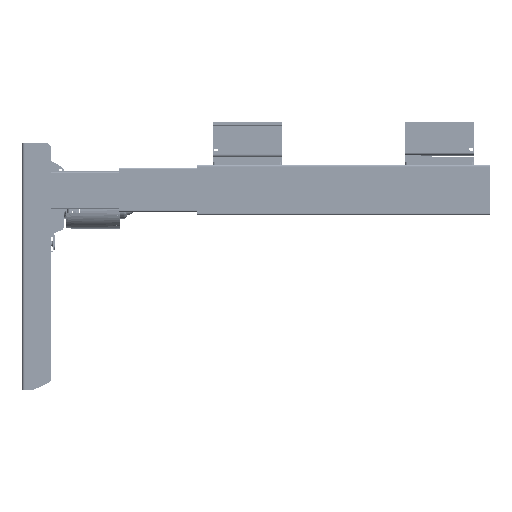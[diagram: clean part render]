
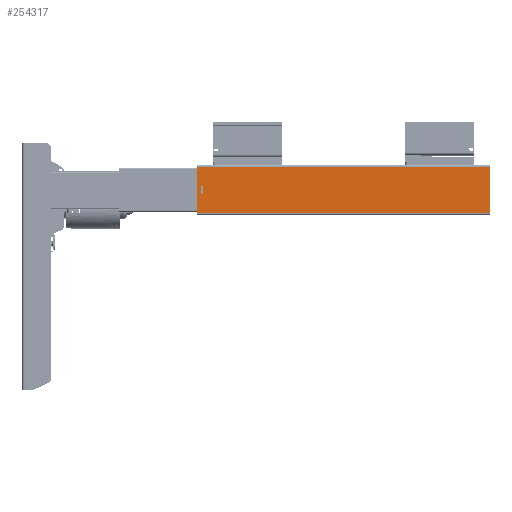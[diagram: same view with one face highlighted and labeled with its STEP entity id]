
A CAD part, left-side view. The second image highlights one B-rep face of the part: STEP entity #254317.
In plain terms, the highlighted planar face has unit normal (-1, 0, 0).
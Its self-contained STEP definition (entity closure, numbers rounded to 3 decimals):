
#1461 = VECTOR ( 'NONE', #70705, 1000. ) ;
#1831 = VERTEX_POINT ( 'NONE', #219398 ) ;
#6969 = ORIENTED_EDGE ( 'NONE', *, *, #154502, .T. ) ;
#9698 = EDGE_CURVE ( 'NONE', #1831, #290063, #94747, .T. ) ;
#11886 = DIRECTION ( 'NONE',  ( 0., 0., -1. ) ) ;
#14662 = PLANE ( 'NONE',  #156588 ) ;
#30412 = EDGE_CURVE ( 'NONE', #268182, #1831, #270926, .T. ) ;
#33419 = ORIENTED_EDGE ( 'NONE', *, *, #129679, .T. ) ;
#40347 = FACE_BOUND ( 'NONE', #306108, .T. ) ;
#44656 = DIRECTION ( 'NONE',  ( 0., 0., -1. ) ) ;
#46553 = DIRECTION ( 'NONE',  ( 0., 0., -1. ) ) ;
#49806 = CARTESIAN_POINT ( 'NONE',  ( -30., 6., 10. ) ) ;
#54493 = LINE ( 'NONE', #253566, #273825 ) ;
#61010 = VERTEX_POINT ( 'NONE', #220093 ) ;
#64738 = CARTESIAN_POINT ( 'NONE',  ( -30., 6., 10. ) ) ;
#70705 = DIRECTION ( 'NONE',  ( 0., 0., 1. ) ) ;
#76611 = VERTEX_POINT ( 'NONE', #307288 ) ;
#87124 = ORIENTED_EDGE ( 'NONE', *, *, #278982, .T. ) ;
#94328 = CARTESIAN_POINT ( 'NONE',  ( -30., 37., 465. ) ) ;
#94747 = LINE ( 'NONE', #192694, #226270 ) ;
#107857 = DIRECTION ( 'NONE',  ( 0., 1., 0. ) ) ;
#111056 = FACE_OUTER_BOUND ( 'NONE', #120756, .T. ) ;
#112973 = LINE ( 'NONE', #284841, #136920 ) ;
#118412 = VERTEX_POINT ( 'NONE', #314613 ) ;
#118907 = EDGE_CURVE ( 'NONE', #76611, #148493, #54493, .T. ) ;
#120756 = EDGE_LOOP ( 'NONE', ( #135731, #207060, #204036, #87124 ) ) ;
#123137 = LINE ( 'NONE', #266127, #298355 ) ;
#129679 = EDGE_CURVE ( 'NONE', #61010, #76611, #161941, .T. ) ;
#135731 = ORIENTED_EDGE ( 'NONE', *, *, #245735, .T. ) ;
#136920 = VECTOR ( 'NONE', #11886, 1000. ) ;
#141791 = DIRECTION ( 'NONE',  ( 0., -1., 0. ) ) ;
#148493 = VERTEX_POINT ( 'NONE', #313461 ) ;
#154502 = EDGE_CURVE ( 'NONE', #148493, #118412, #263488, .T. ) ;
#156588 = AXIS2_PLACEMENT_3D ( 'NONE', #308598, #260381, #107857 ) ;
#161941 = LINE ( 'NONE', #237427, #194351 ) ;
#168225 = DIRECTION ( 'NONE',  ( 0., -1., 0. ) ) ;
#179431 = VERTEX_POINT ( 'NONE', #189070 ) ;
#189070 = CARTESIAN_POINT ( 'NONE',  ( -30., 37., 0. ) ) ;
#192694 = CARTESIAN_POINT ( 'NONE',  ( -30., -37., 465. ) ) ;
#194351 = VECTOR ( 'NONE', #44656, 1000. ) ;
#195138 = CARTESIAN_POINT ( 'NONE',  ( -30., -37., 0. ) ) ;
#204036 = ORIENTED_EDGE ( 'NONE', *, *, #30412, .F. ) ;
#205285 = DIRECTION ( 'NONE',  ( 0., 1., 0. ) ) ;
#207060 = ORIENTED_EDGE ( 'NONE', *, *, #9698, .F. ) ;
#219398 = CARTESIAN_POINT ( 'NONE',  ( -30., -37., 465. ) ) ;
#220093 = CARTESIAN_POINT ( 'NONE',  ( -30., -6., 10. ) ) ;
#221107 = DIRECTION ( 'NONE',  ( 0., -1., 0. ) ) ;
#221818 = VECTOR ( 'NONE', #141791, 1000. ) ;
#226270 = VECTOR ( 'NONE', #46553, 1000. ) ;
#234591 = VECTOR ( 'NONE', #168225, 1000. ) ;
#237427 = CARTESIAN_POINT ( 'NONE',  ( -30., -6., 10. ) ) ;
#245735 = EDGE_CURVE ( 'NONE', #179431, #290063, #123137, .T. ) ;
#248767 = ORIENTED_EDGE ( 'NONE', *, *, #298235, .T. ) ;
#253566 = CARTESIAN_POINT ( 'NONE',  ( -30., 6., 6. ) ) ;
#254317 = ADVANCED_FACE ( 'NONE', ( #40347, #111056 ), #14662, .F. ) ;
#260381 = DIRECTION ( 'NONE',  ( 1., 0., 0. ) ) ;
#263488 = LINE ( 'NONE', #49806, #1461 ) ;
#266127 = CARTESIAN_POINT ( 'NONE',  ( -30., 37., 0. ) ) ;
#268182 = VERTEX_POINT ( 'NONE', #311638 ) ;
#268870 = ORIENTED_EDGE ( 'NONE', *, *, #118907, .T. ) ;
#270926 = LINE ( 'NONE', #94328, #234591 ) ;
#273825 = VECTOR ( 'NONE', #205285, 1000. ) ;
#278982 = EDGE_CURVE ( 'NONE', #268182, #179431, #112973, .T. ) ;
#284841 = CARTESIAN_POINT ( 'NONE',  ( -30., 37., 465. ) ) ;
#290063 = VERTEX_POINT ( 'NONE', #195138 ) ;
#298235 = EDGE_CURVE ( 'NONE', #118412, #61010, #304188, .T. ) ;
#298355 = VECTOR ( 'NONE', #221107, 1000. ) ;
#304188 = LINE ( 'NONE', #64738, #221818 ) ;
#306108 = EDGE_LOOP ( 'NONE', ( #6969, #248767, #33419, #268870 ) ) ;
#307288 = CARTESIAN_POINT ( 'NONE',  ( -30., -6., 6. ) ) ;
#308598 = CARTESIAN_POINT ( 'NONE',  ( -30., 37., 465. ) ) ;
#311638 = CARTESIAN_POINT ( 'NONE',  ( -30., 37., 465. ) ) ;
#313461 = CARTESIAN_POINT ( 'NONE',  ( -30., 6., 6. ) ) ;
#314613 = CARTESIAN_POINT ( 'NONE',  ( -30., 6., 10. ) ) ;
